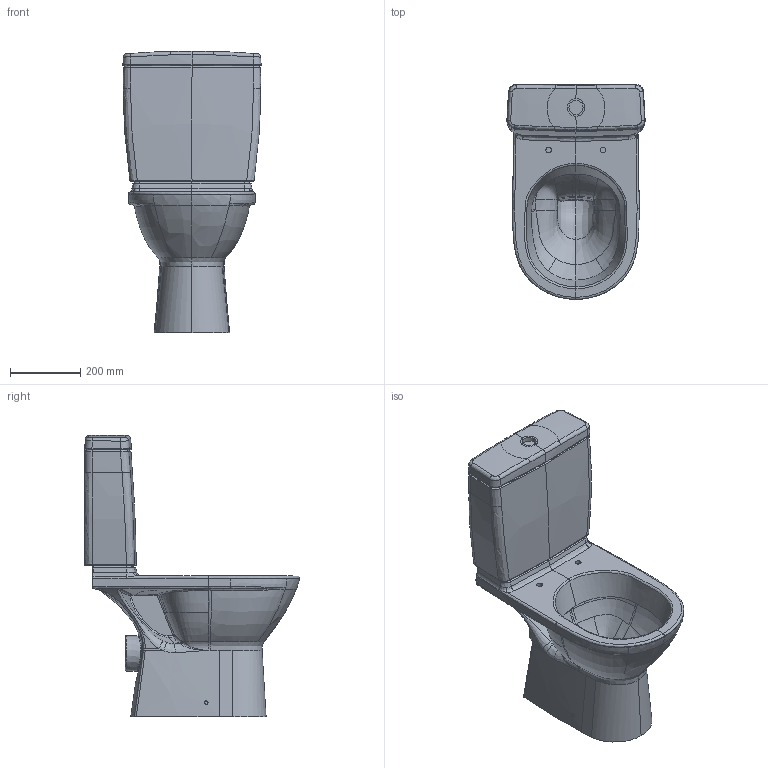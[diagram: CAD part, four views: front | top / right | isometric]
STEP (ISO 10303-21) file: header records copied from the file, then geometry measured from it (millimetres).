
FILE_DESCRIPTION(/* description */ (''),/* implementation_level */ '2;1');
FILE_NAME(/* name */ '568910_O.Novo_STWC_Kombi_mit_WK_578811.stp',/* time_stamp */ '2019-02-28T08:29:01+01:00',/* author */ (''),/* organization */ (''),/* preprocessor_version */ 'ST-DEVELOPER v16',/* originating_system */ 'SIEMENS PLM Software NX 10.0',/* authorisation */ '');
FILE_SCHEMA (('AUTOMOTIVE_DESIGN { 1 0 10303 214 3 1 1 1 }'));
Products named in the file (1): math2F8C06ACmgqx
Bounding box: 393.21 x 611.01 x 800 mm (x, y, z)
Volume: 40734946.1 mm3; surface area: 1577123.1 mm2
Topology: 2 solids, 2 shells, 451 faces, 1131 edges, 671 vertices
Faces by surface type: bspline 364, plane 43, cylinder 34, sphere 6, cone 2, torus 2
Full cylindrical faces by diameter (mm): 16 x2, 40 x1
Entity records: 46421 total; most frequent: CARTESIAN_POINT 39041, ORIENTED_EDGE 2218, EDGE_CURVE 1109, B_SPLINE_CURVE_WITH_KNOTS 857, VERTEX_POINT 671, EDGE_LOOP 460, ADVANCED_FACE 451, FACE_OUTER_BOUND 442
